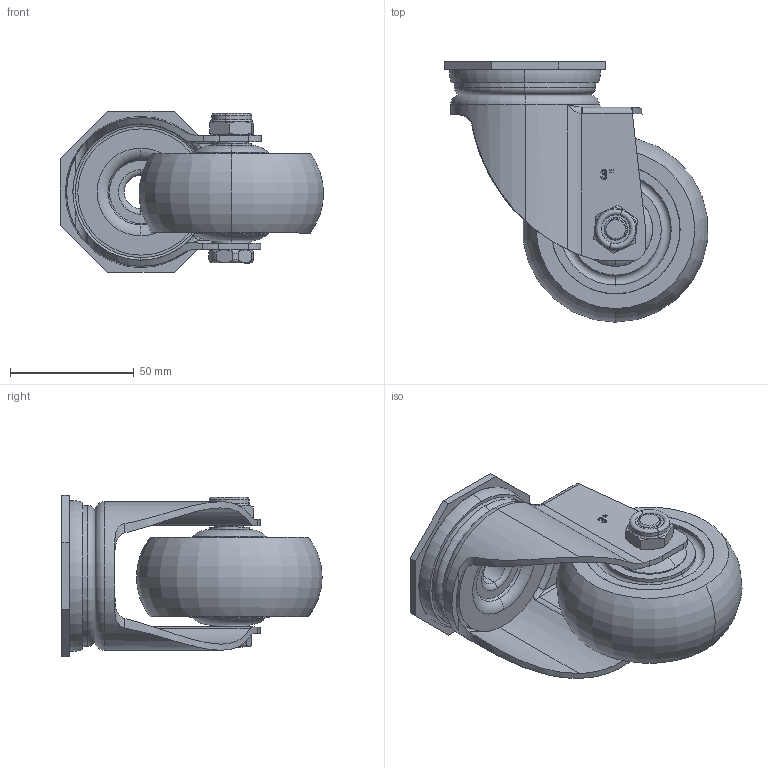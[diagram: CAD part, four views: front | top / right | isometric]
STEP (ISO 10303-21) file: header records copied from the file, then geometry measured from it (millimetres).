
FILE_DESCRIPTION (( 'STEP AP203' ), '1' );
FILE_NAME ('3寸孔顶万向.STEP', '2024-03-19T03:35:47', ( '微软用户' ), ( '微软中国' ), 'SwSTEP 2.0', 'SolidWorks 2008', '' );
FILE_SCHEMA (( 'CONFIG_CONTROL_DESIGN' ));
Length unit declared in the file: millimetre
Products named in the file (7): M10蹟譫; 2023-3-8  中型3寸万向支架_默认; 3渡謂階勀砃; M10-55蹟裝; 中型3寸轮_默认; 孔顶_默认; 40.2mm中型中管_默认
Assembly tree (6 placements, depth 2):
  3渡謂階勀砃
    2023-3-8  中型3寸万向支架_默认
    M10蹟譫
    M10-55蹟裝
    中型3寸轮_默认
    孔顶_默认
    40.2mm中型中管_默认
Bounding box: 106.25 x 105.11 x 65.01 mm (x, y, z)
Volume: 203259.4 mm3; surface area: 61627 mm2
Topology: 6 solids, 6 shells, 450 faces, 1144 edges, 741 vertices
Faces by surface type: plane 171, cylinder 125, bspline 90, torus 48, cone 16
Entity records: 20103 total; most frequent: CARTESIAN_POINT 9152, ORIENTED_EDGE 2280, DIRECTION 1876, EDGE_CURVE 1140, VERTEX_POINT 741, AXIS2_PLACEMENT_3D 670, LINE 536, VECTOR 536
